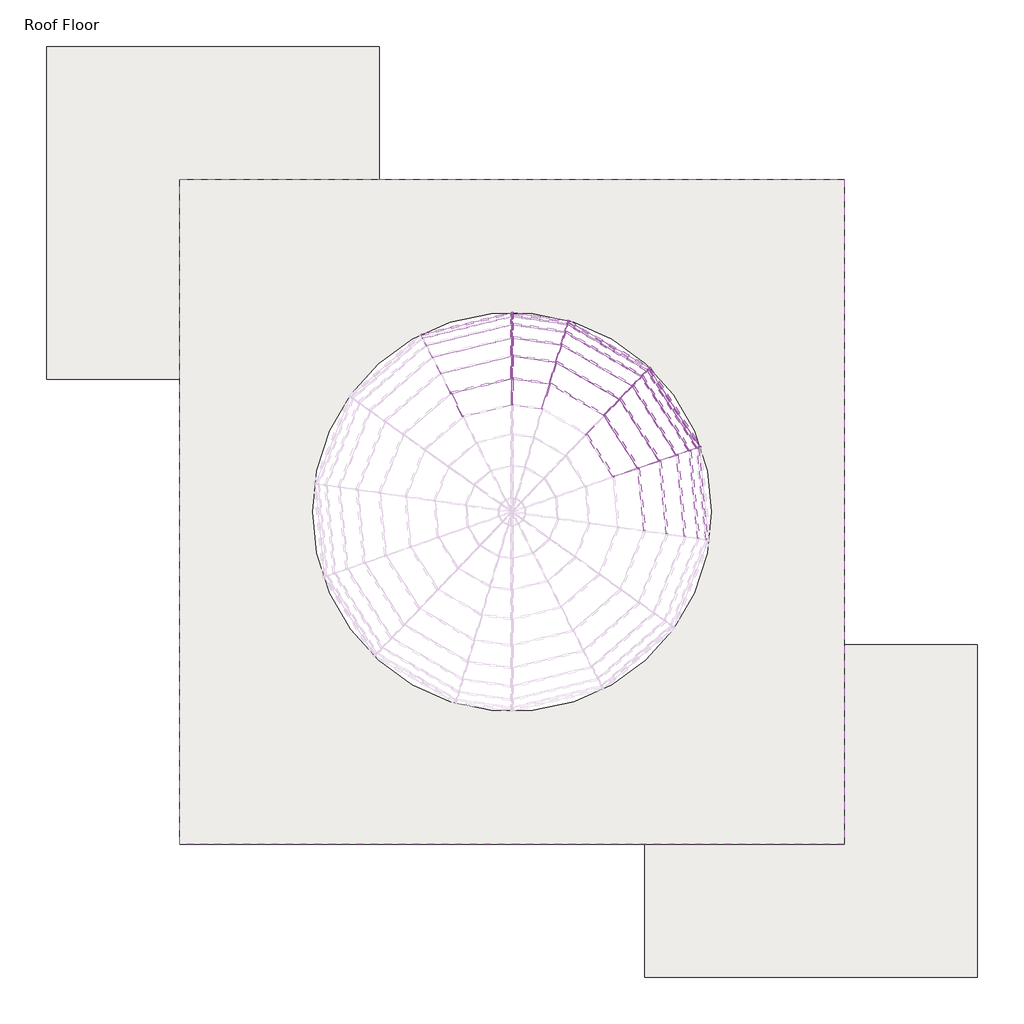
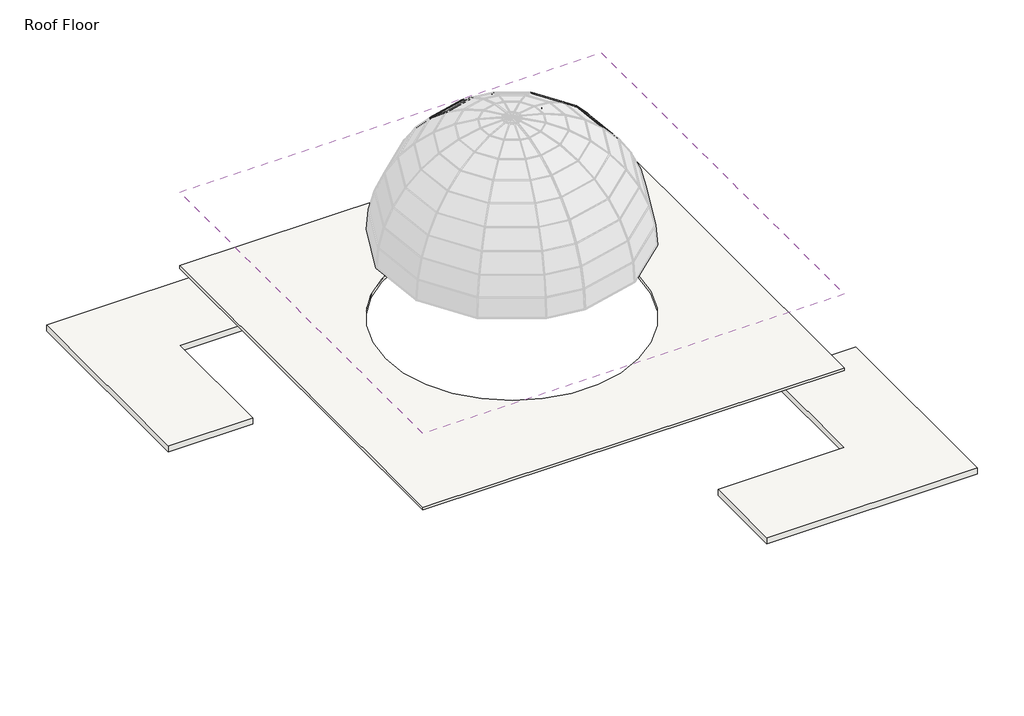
# One storey, part 5 of 5: 55 members, 23 plates, 2 roofs, 2 slabs.
"""IFC4 building model written with IfcOpenShell, lengths in millimetres."""

from ifc_helpers import new_model, si_unit, point, frame, frame_2d, origin, place, context, project, spatial, polyline, circle_curve, trimmed, segment, composite_curve, outline, extrude, transform, mapped, element, save
from components import member_a4b9d852, member_4cbb40d8, member_e5884c93, member_19e455aa, member_1644e863, member_ecfbb555, member_1f5db4fb, member_3542fcca, member_8c0c7285, member_6952dcc5, member_c3dcfc8e, member_16816f3b, member_335e9b28, member_95e271e4, member_56577a18, member_7f7bd10d, member_e03b8e9c, member_dc775c2f, member_acb6b9ec, member_e077157f, member_c4213f63, member_8ccf5568, member_51c93bb0, member_3c5b05b3, member_fd7ad58a, member_76afc974, member_c7f1f8f4, member_0ec1a058, system_panel_glazed_8f517b17, system_panel_glazed_e103372f, system_panel_glazed_d4e3dddd, system_panel_glazed_6000cac6, system_panel_glazed_c16507b5, system_panel_glazed_773f6a53, system_panel_glazed_509ce35e, system_panel_glazed_afa622ac, system_panel_glazed_fdc99001, system_panel_glazed_fc471d4c, system_panel_glazed_079f8796, system_panel_glazed_023fd094, system_panel_glazed_a1e2ecf7, system_panel_glazed_c9cd471f, system_panel_glazed_8f62df24, system_panel_glazed_f537650c, system_panel_glazed_44273b71, system_panel_glazed_6d268319

model = new_model("IFC4")

# Units and contexts
model_context = context("Model", 3, world=origin())
ifc_project = project(units=[si_unit("LENGTHUNIT", "METRE", prefix="MILLI")], contexts=[model_context])

# Site, building, storey
site = spatial("IfcSite", under=ifc_project)
building = spatial("IfcBuilding", under=site)
storey = spatial("IfcBuildingStorey", under=building, Name="Roof Floor", Elevation=15240.0)

# Members
placement = place(None, origin())
member_shape = member_a4b9d852(model_context)
element("IfcMember", 1, ObjectType="Rectangular Mullion : 1\" Square", at=placement, inside=storey, context=model_context, shape_type="MappedRepresentation", body=[
    mapped(member_shape, transform((-3865.6555486, 2046.7790077, 21675.0614442), x_axis=(0.17684502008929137, -0.7291506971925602, 0.6611089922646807), y_axis=(-0.1558248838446, 0.6424824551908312, 0.7502898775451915), z_axis=(-0.9718253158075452, -0.23570226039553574, 0.0))),
])
member_2_shape = member_4cbb40d8(model_context)
element("IfcMember", 2, ObjectType="Rectangular Mullion : 1\" Square", at=placement, inside=storey, context=model_context, shape_type="MappedRepresentation", body=[
    mapped(member_2_shape, transform((-2445.9654175, 2901.277492, 21117.9670279), x_axis=(-0.08886370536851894, -0.6165291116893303, 0.7823011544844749), y_axis=(0.11160400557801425, 0.774299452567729, 0.6229003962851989), z_axis=(-0.9897715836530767, 0.14266117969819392, 0.0))),
])
member_3_shape = member_e5884c93(model_context)
element("IfcMember", 3, ObjectType="Rectangular Mullion : 1\" Square", at=placement, inside=storey, context=model_context, shape_type="MappedRepresentation", body=[
    mapped(member_3_shape, transform((924.03532, 474.2517773, 21117.9670279), x_axis=(-0.6270371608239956, -0.059616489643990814, 0.7767047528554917), y_axis=(0.7732178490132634, 0.07351483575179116, 0.6298648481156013), z_axis=(-0.0946496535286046, 0.9955106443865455, 0.0))),
])
element("IfcMember", 4, ObjectType="Rectangular Mullion : 1\" Square", at=placement, inside=storey, context=model_context, shape_type="MappedRepresentation", body=[
    mapped(member_3_shape, transform((15.2659687, 1900.7280925, 21117.9670279), x_axis=(-0.5300546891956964, -0.34025248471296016, 0.7767047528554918), y_axis=(0.6536259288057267, 0.41957528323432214, 0.6298648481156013), z_axis=(-0.5401991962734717, 0.8415371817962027, 0.0))),
])
element("IfcMember", 5, ObjectType="Rectangular Mullion : 1\" Square", at=placement, inside=storey, context=model_context, shape_type="MappedRepresentation", body=[
    mapped(member_3_shape, transform((-1446.0304014, 2752.3790366, 21117.9670279), x_axis=(-0.31528228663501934, -0.5452768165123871, 0.7767047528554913), y_axis=(0.38878380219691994, 0.6723967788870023, 0.6298648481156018), z_axis=(-0.8657044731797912, 0.500555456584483, 0.0))),
])
member_4_shape = member_19e455aa(model_context)
element("IfcMember", 6, ObjectType="Rectangular Mullion : 1\" Square", at=placement, inside=storey, context=model_context, shape_type="MappedRepresentation", body=[
    mapped(member_4_shape, transform((-2445.9654175, 3321.4246649, 20482.2624164), x_axis=(-0.06901071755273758, -0.4787907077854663, 0.8752125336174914), y_axis=(0.12485885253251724, 0.8662604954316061, 0.48373858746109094), z_axis=(-0.9897715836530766, 0.14266117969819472, 0.0))),
])
member_5_shape = member_1644e863(model_context)
element("IfcMember", 7, ObjectType="Rectangular Mullion : 1\" Square", at=placement, inside=storey, context=model_context, shape_type="MappedRepresentation", body=[
    mapped(member_5_shape, transform((1321.1388108, 611.4832041, 20482.2624164), x_axis=(-0.48833472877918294, -0.04642914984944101, 0.87142040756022), y_axis=(0.8675082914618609, 0.08247963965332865, 0.4905369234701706), z_axis=(-0.09464965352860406, 0.9955106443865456, 0.0))),
])
element("IfcMember", 8, ObjectType="Rectangular Mullion : 1\" Square", at=placement, inside=storey, context=model_context, shape_type="MappedRepresentation", body=[
    mapped(member_5_shape, transform((305.3779974, 2204.6337649, 20482.2624164), x_axis=(-0.41280506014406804, -0.2649876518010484, 0.8714204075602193), y_axis=(0.7333326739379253, 0.4707406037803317, 0.49053692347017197), z_axis=(-0.5401991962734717, 0.8415371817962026, 0.0))),
])
element("IfcMember", 9, ObjectType="Rectangular Mullion : 1\" Square", at=placement, inside=storey, context=model_context, shape_type="MappedRepresentation", body=[
    mapped(member_5_shape, transform((-1327.3791745, 3155.4243607, 20482.2624164), x_axis=(-0.24554093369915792, -0.4246600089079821, 0.8714204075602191), y_axis=(0.4361942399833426, 0.7543925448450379, 0.4905369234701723), z_axis=(-0.8657044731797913, 0.5005554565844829, 0.0))),
])
member_6_shape = member_ecfbb555(model_context)
element("IfcMember", 10, ObjectType="Rectangular Mullion : 1\" Square", at=placement, inside=storey, context=model_context, shape_type="MappedRepresentation", body=[
    mapped(member_6_shape, transform((1612.935569, 712.3226236, 19785.6060711), x_axis=(-0.3344897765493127, -0.031802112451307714, 0.941862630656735), y_axis=(0.9376342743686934, 0.08914697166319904, 0.335998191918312), z_axis=(-0.09464965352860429, 0.9955106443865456, 0.0))),
])
element("IfcMember", 11, ObjectType="Rectangular Mullion : 1\" Square", at=placement, inside=storey, context=model_context, shape_type="MappedRepresentation", body=[
    mapped(member_6_shape, transform((518.5560516, 2427.9475661, 19785.6060711), x_axis=(-0.2827549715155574, -0.18150595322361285, 0.9418626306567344), y_axis=(0.792612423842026, 0.5087934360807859, 0.3359981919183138), z_axis=(-0.5401991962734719, 0.8415371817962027, 0.0))),
])
element("IfcMember", 12, ObjectType="Rectangular Mullion : 1\" Square", at=placement, inside=storey, context=model_context, shape_type="MappedRepresentation", body=[
    mapped(member_6_shape, transform((-1240.1927252, 3451.5872544, 19785.6060711), x_axis=(-0.16818572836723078, -0.2908751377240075, 0.9418626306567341), y_axis=(0.4714544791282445, 0.81537469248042, 0.3359981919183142), z_axis=(-0.865704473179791, 0.500555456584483, 0.0))),
])
member_7_shape = member_1f5db4fb(model_context)
element("IfcMember", 13, ObjectType="Rectangular Mullion : 1\" Square", at=placement, inside=storey, context=model_context, shape_type="MappedRepresentation", body=[
    mapped(member_7_shape, transform((-2445.9654175, 3818.8903285, 19047.3495572), x_axis=(-0.0239321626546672, -0.16603938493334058, 0.9858286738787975), y_axis=(0.1406394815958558, 0.9757452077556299, 0.16775525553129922), z_axis=(-0.9897715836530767, 0.1426611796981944, 0.0))),
])
member_8_shape = member_3542fcca(model_context)
element("IfcMember", 14, ObjectType="Rectangular Mullion : 1\" Square", at=placement, inside=storey, context=model_context, shape_type="MappedRepresentation", body=[
    mapped(member_8_shape, transform((1791.3201289, 773.9689406, 19047.3495572), x_axis=(-0.16999696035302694, -0.016162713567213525, 0.9853120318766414), y_axis=(0.9808886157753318, 0.09325944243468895, 0.17076357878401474), z_axis=(-0.09464965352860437, 0.9955106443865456, 0.0))),
])
element("IfcMember", 15, ObjectType="Rectangular Mullion : 1\" Square", at=placement, inside=storey, context=model_context, shape_type="MappedRepresentation", body=[
    mapped(member_8_shape, transform((648.8785186, 2564.4663348, 19047.3495572), x_axis=(-0.14370390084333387, -0.092246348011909, 0.9853120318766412), y_axis=(0.8291767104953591, 0.5322647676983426, 0.17076357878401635), z_axis=(-0.5401991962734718, 0.8415371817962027, 0.0))),
])
element("IfcMember", 16, ObjectType="Rectangular Mullion : 1\" Square", at=placement, inside=storey, context=model_context, shape_type="MappedRepresentation", body=[
    mapped(member_8_shape, transform((-1186.8928994, 3632.6409708, 19047.3495572), x_axis=(-0.08547664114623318, -0.14783079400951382, 0.985312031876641), y_axis=(0.4932033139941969, 0.852989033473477, 0.17076357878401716), z_axis=(-0.8657044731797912, 0.5005554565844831, 0.0))),
])
member_9_shape = member_8c0c7285(model_context)
element("IfcMember", 17, ObjectType="Rectangular Mullion : 1\" Square", at=placement, inside=storey, context=model_context, shape_type="MappedRepresentation", body=[
    mapped(member_9_shape, transform((-2445.9654175, 3630.1542173, 19785.6060711), x_axis=(-0.04716053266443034, -0.3271959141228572, 0.9437789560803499), y_axis=(0.134640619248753, 0.9341255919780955, 0.33057719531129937), z_axis=(-0.9897715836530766, 0.14266117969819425, 0.0))),
])
member_10_shape = member_6952dcc5(model_context)
element("IfcMember", 18, ObjectType="Rectangular Mullion : 1\" Square", at=placement, inside=storey, context=model_context, shape_type="MappedRepresentation", body=[
    mapped(member_10_shape, transform((1843.2747837, 818.0402649, 18288.0), x_axis=(0.06816541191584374, 0.04375671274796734, -0.9967140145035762), y_axis=(0.8387719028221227, 0.5384241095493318, 0.08100106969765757), z_axis=(0.5401991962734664, -0.8415371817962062, 0.0))),
])
element("IfcMember", 19, ObjectType="Rectangular Mullion : 1\" Square", at=placement, inside=storey, context=model_context, shape_type="MappedRepresentation", body=[
    mapped(member_10_shape, transform((674.8703533, 2627.4424597, 18288.0), x_axis=(0.0405455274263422, 0.07012298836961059, -0.9967140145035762), y_axis=(0.4989106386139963, 0.86285978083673, 0.08100106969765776), z_axis=(0.8657044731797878, -0.5005554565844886, 0.0))),
])
member_11_shape = member_c3dcfc8e(model_context)
element("IfcMember", 20, ObjectType="Rectangular Mullion : 1\" Square", at=placement, inside=storey, context=model_context, shape_type="MappedRepresentation", body=[
    mapped(member_11_shape, transform((-1192.5247936, 3701.7250911, 18288.0), x_axis=(0.011767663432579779, 0.08164308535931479, -0.9965921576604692), y_axis=(0.14217501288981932, 0.9863985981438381, 0.08248679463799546), z_axis=(0.9897715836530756, -0.14266117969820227, 0.0))),
])
member_12_shape = member_16816f3b(model_context)
element("IfcMember", 21, ObjectType="Rectangular Mullion : 1\" Square", at=placement, inside=storey, context=model_context, shape_type="MappedRepresentation", body=[
    mapped(member_12_shape, transform((-761.6121395, 1086.9125989, 22138.0708204), x_axis=(-0.7144526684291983, -0.45862115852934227, 0.5284165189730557), y_axis=(0.44468214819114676, 0.28545017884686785, 0.8489852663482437), z_axis=(-0.5401991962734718, 0.8415371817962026, 0.0))),
])
member_13_shape = member_335e9b28(model_context)
element("IfcMember", 22, ObjectType="Rectangular Mullion : 1\" Square", at=placement, inside=storey, context=model_context, shape_type="MappedRepresentation", body=[
    mapped(member_13_shape, transform((-2445.9654175, 2381.3834534, 21675.0614442), x_axis=(-0.10617586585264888, -0.7366394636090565, 0.667898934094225), y_axis=(0.09528324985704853, 0.661067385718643, 0.7442519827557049), z_axis=(-0.9897715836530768, 0.1426611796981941, 0.0))),
])
member_14_shape = member_95e271e4(model_context)
element("IfcMember", 23, ObjectType="Rectangular Mullion : 1\" Square", at=placement, inside=storey, context=model_context, shape_type="MappedRepresentation", body=[
    mapped(member_14_shape, transform((432.6557491, 304.4403271, 21675.0614442), x_axis=(-0.7469215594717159, -0.07101467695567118, 0.6611089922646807), y_axis=(0.658141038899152, 0.06257373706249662, 0.7502898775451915), z_axis=(-0.09464965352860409, 0.9955106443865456, 0.0))),
])
element("IfcMember", 24, ObjectType="Rectangular Mullion : 1\" Square", at=placement, inside=storey, context=model_context, shape_type="MappedRepresentation", body=[
    mapped(member_14_shape, transform((-343.7213671, 1524.6723731, 21675.0614442), x_axis=(-0.631396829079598, -0.405305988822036, 0.6611089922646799), y_axis=(0.5563477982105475, 0.357130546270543, 0.7502898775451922), z_axis=(-0.5401991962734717, 0.8415371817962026, 0.0))),
])
element("IfcMember", 25, ObjectType="Rectangular Mullion : 1\" Square", at=placement, inside=storey, context=model_context, shape_type="MappedRepresentation", body=[
    mapped(member_14_shape, transform((-1592.8505385, 2253.6469856, 21675.0614442), x_axis=(-0.37556169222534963, -0.6495293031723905, 0.6611089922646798), y_axis=(0.33092171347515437, 0.5723250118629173, 0.7502898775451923), z_axis=(-0.865704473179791, 0.5005554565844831, 0.0))),
])
member_15_shape = member_56577a18(model_context)
element("IfcMember", 26, ObjectType="Rectangular Mullion : 1\" Square", at=placement, inside=storey, context=model_context, shape_type="MappedRepresentation", body=[
    mapped(member_15_shape, transform((-2495.7899787, 3880.027085, 18288.0), x_axis=(-0.019092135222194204, 0.07871889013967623, -0.9967140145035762), y_axis=(-0.23492774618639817, 0.9686319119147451, 0.08100106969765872), z_axis=(0.971825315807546, 0.23570226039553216, 0.0))),
])
member_16_shape = member_7f7bd10d(model_context)
element("IfcMember", 27, ObjectType="Rectangular Mullion : 1\" Square", at=placement, inside=storey, context=model_context, shape_type="MappedRepresentation", body=[
    mapped(member_16_shape, transform((-3877.9977301, 2043.785589, 21675.0614442), x_axis=(-0.8888888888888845, -0.4581228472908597, 0.0), y_axis=(-0.27836636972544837, 0.5401100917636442, 0.7942249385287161), z_axis=(-0.36385259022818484, 0.7059777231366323, -0.6076238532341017))),
])
element("IfcMember", 28, ObjectType="Rectangular Mullion : 1\" Square", at=placement, inside=storey, context=model_context, shape_type="MappedRepresentation", body=[
    mapped(member_16_shape, transform((1790.1180783, 786.6119258, 19047.3495572), x_axis=(-0.3266270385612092, 0.9451533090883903, 0.0), y_axis=(0.915702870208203, 0.3164495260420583, 0.24768518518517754), z_axis=(0.23410047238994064, 0.08090067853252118, -0.9688405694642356))),
])
element("IfcMember", 29, ObjectType="Rectangular Mullion : 1\" Square", at=placement, inside=storey, context=model_context, shape_type="MappedRepresentation", body=[
    mapped(member_16_shape, transform((1611.7335184, 724.9656087, 19785.6060711), x_axis=(-0.3266270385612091, 0.9451533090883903, 0.0), y_axis=(0.8641037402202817, 0.2986178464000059, 0.4051568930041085), z_axis=(0.3829353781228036, 0.1323351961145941, -0.914247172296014))),
])
element("IfcMember", 30, ObjectType="Rectangular Mullion : 1\" Square", at=placement, inside=storey, context=model_context, shape_type="MappedRepresentation", body=[
    mapped(member_16_shape, transform((1319.9367602, 624.1261893, 20482.2624164), x_axis=(-0.32662703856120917, 0.9451533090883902, 0.0), y_axis=(0.7885017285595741, 0.2724912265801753, 0.551374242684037), z_axis=(0.5211331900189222, 0.180093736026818, -0.8342580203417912))),
])
element("IfcMember", 31, ObjectType="Rectangular Mullion : 1\" Square", at=placement, inside=storey, context=model_context, shape_type="MappedRepresentation", body=[
    mapped(member_16_shape, transform((922.8332694, 486.8947624, 21117.9670279), x_axis=(-0.3266270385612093, 0.9451533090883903, 0.0), y_axis=(0.6909968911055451, 0.2387954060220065, 0.6822756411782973), z_axis=(0.6448550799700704, 0.22284967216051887, -0.7310950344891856))),
])
element("IfcMember", 32, ObjectType="Rectangular Mullion : 1\" Square", at=placement, inside=storey, context=model_context, shape_type="MappedRepresentation", body=[
    mapped(member_16_shape, transform((431.4536985, 317.0833123, 21675.0614442), x_axis=(-0.32662703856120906, 0.9451533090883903, 0.0), y_axis=(0.5742976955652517, 0.1984663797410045, 0.794224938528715), z_axis=(0.7506643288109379, 0.25941533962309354, -0.6076238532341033))),
])
element("IfcMember", 33, ObjectType="Rectangular Mullion : 1\" Square", at=placement, inside=storey, context=model_context, shape_type="MappedRepresentation", body=[
    mapped(member_16_shape, transform((642.0179888, 2575.1538571, 19047.3495572), x_axis=(-0.7233314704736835, 0.6905009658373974, 0.0), y_axis=(0.6689853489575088, 0.700792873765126, 0.24768518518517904), z_axis=(0.17102685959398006, 0.17915848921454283, -0.9688405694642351))),
])
element("IfcMember", 34, ObjectType="Rectangular Mullion : 1\" Square", at=placement, inside=storey, context=model_context, shape_type="MappedRepresentation", body=[
    mapped(member_16_shape, transform((511.6955218, 2438.6350883, 19785.6060711), x_axis=(-0.7233314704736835, 0.6905009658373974, 0.0), y_axis=(0.6312885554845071, 0.6613037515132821, 0.4051568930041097), z_axis=(0.2797612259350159, 0.2930627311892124, -0.9142471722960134))),
])
element("IfcMember", 35, ObjectType="Rectangular Mullion : 1\" Square", at=placement, inside=storey, context=model_context, shape_type="MappedRepresentation", body=[
    mapped(member_16_shape, transform((298.5174676, 2215.3212871, 20482.2624164), x_axis=(-0.7233314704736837, 0.6905009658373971, 0.0), y_axis=(0.5760559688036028, 0.603445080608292, 0.5513742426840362), z_axis=(0.38072444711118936, 0.39882634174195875, -0.8342580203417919))),
])
element("IfcMember", 36, ObjectType="Rectangular Mullion : 1\" Square", at=placement, inside=storey, context=model_context, shape_type="MappedRepresentation", body=[
    mapped(member_16_shape, transform((8.4054389, 1911.4156147, 21117.9670279), x_axis=(-0.7233314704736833, 0.6905009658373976, 0.0), y_axis=(0.5048218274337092, 0.5288240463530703, 0.6822756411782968), z_axis=(0.47111198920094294, 0.4935114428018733, -0.731095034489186))),
])
element("IfcMember", 37, ObjectType="Rectangular Mullion : 1\" Square", at=placement, inside=storey, context=model_context, shape_type="MappedRepresentation", body=[
    mapped(member_16_shape, transform((-1197.8873462, 3638.9980251, 19047.3495572), x_axis=(-0.9592955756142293, 0.28240396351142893, 0.0), y_axis=(0.2736044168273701, 0.9294044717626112, 0.24768518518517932), z_axis=(0.0699472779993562, 0.23760330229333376, -0.9688405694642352))),
])
element("IfcMember", 38, ObjectType="Rectangular Mullion : 1\" Square", at=placement, inside=storey, context=model_context, shape_type="MappedRepresentation", body=[
    mapped(member_16_shape, transform((-1251.187172, 3457.9443087, 19785.6060711), x_axis=(-0.9592955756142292, 0.2824039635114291, 0.0), y_axis=(0.2581870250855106, 0.8770332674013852, 0.4051568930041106), z_axis=(0.1144179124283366, 0.38866521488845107, -0.914247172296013))),
])
element("IfcMember", 39, ObjectType="Rectangular Mullion : 1\" Square", at=placement, inside=storey, context=model_context, shape_type="MappedRepresentation", body=[
    mapped(member_16_shape, transform((-1338.3736213, 3161.781415, 20482.2624164), x_axis=(-0.9592955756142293, 0.28240396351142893, 0.0), y_axis=(0.23559777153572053, 0.800300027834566, 0.5513742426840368), z_axis=(0.15571027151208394, 0.5289308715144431, -0.8342580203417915))),
])
element("IfcMember", 40, ObjectType="Rectangular Mullion : 1\" Square", at=placement, inside=storey, context=model_context, shape_type="MappedRepresentation", body=[
    mapped(member_16_shape, transform((-1457.0248482, 2758.7360909, 21117.9670279), x_axis=(-0.9592955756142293, 0.28240396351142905, 0.0), y_axis=(0.2064641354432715, 0.7013362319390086, 0.6822756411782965), z_axis=(0.19267734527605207, 0.6545040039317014, -0.7310950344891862))),
])
element("IfcMember", 41, ObjectType="Rectangular Mullion : 1\" Square", at=placement, inside=storey, context=model_context, shape_type="MappedRepresentation", body=[
    mapped(member_16_shape, transform((-1603.8449853, 2260.0040399, 21675.0614442), x_axis=(-0.9592955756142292, 0.2824039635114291, 0.0), y_axis=(0.1715953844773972, 0.5828908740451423, 0.7942249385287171), z_axis=(0.2242922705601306, 0.7618964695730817, -0.6076238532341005))),
])
member_17_shape = member_e03b8e9c(model_context)
element("IfcMember", 42, ObjectType="Rectangular Mullion : 1\" Square", at=placement, inside=storey, context=model_context, shape_type="MappedRepresentation", body=[
    mapped(member_17_shape, transform((-2471.1056157, 3822.5139224, 19047.3495572), x_axis=(0.972012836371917, 0.23411060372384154, 0.01957731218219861), y_axis=(-0.23492774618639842, 0.9686319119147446, 0.08100106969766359), z_axis=(0.0, -0.08333333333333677, 0.9965217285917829))),
])
member_18_shape = member_dc775c2f(model_context)
element("IfcMember", 43, ObjectType="Rectangular Mullion : 1\" Square", at=placement, inside=storey, context=model_context, shape_type="MappedRepresentation", body=[
    mapped(member_18_shape, transform((-2471.1056157, 3633.7778113, 19785.6060711), x_axis=(0.973485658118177, 0.22162039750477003, 0.0566575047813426), y_axis=(-0.22874805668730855, 0.9431523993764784, 0.24111797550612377), z_axis=(0.0, -0.2476851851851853, 0.9688405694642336))),
])
member_19_shape = member_acb6b9ec(model_context)
element("IfcMember", 44, ObjectType="Rectangular Mullion : 1\" Square", at=placement, inside=storey, context=model_context, shape_type="MappedRepresentation", body=[
    mapped(member_19_shape, transform((-2471.1056157, 3325.0482588, 20482.2624164), x_axis=(0.9762871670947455, 0.19791575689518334, 0.08770815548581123), y_axis=(-0.21647948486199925, 0.8925677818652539, 0.39554947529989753), z_axis=(0.0, -0.40515689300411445, 0.9142471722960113))),
])
member_20_shape = member_e077157f(model_context)
element("IfcMember", 45, ObjectType="Rectangular Mullion : 1\" Square", at=placement, inside=storey, context=model_context, shape_type="MappedRepresentation", body=[
    mapped(member_20_shape, transform((-2471.1056157, 2904.9010859, 21117.9670279), x_axis=(0.9801376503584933, 0.16544871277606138, 0.10934765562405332), y_axis=(-0.19831839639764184, 0.8176876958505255, 0.5404226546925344), z_axis=(0.0, -0.5513742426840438, 0.8342580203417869))),
])
member_21_shape = member_c4213f63(model_context)
element("IfcMember", 46, ObjectType="Rectangular Mullion : 1\" Square", at=placement, inside=storey, context=model_context, shape_type="MappedRepresentation", body=[
    mapped(member_21_shape, transform((-2471.1056157, 2385.0070473, 21675.0614442), x_axis=(0.9846406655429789, 0.127644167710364, 0.11912063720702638), y_axis=(-0.1745931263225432, 0.7198659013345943, 0.671796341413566), z_axis=(0.0, -0.6822756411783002, 0.7310950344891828))),
])
member_22_shape = member_8ccf5568(model_context)
element("IfcMember", 47, ObjectType="Rectangular Mullion : 1\" Square", at=placement, inside=storey, context=model_context, shape_type="MappedRepresentation", body=[
    mapped(member_22_shape, transform((1850.1353135, 807.3527427, 18288.0), x_axis=(-0.326627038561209, 0.9451533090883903, 0.0), y_axis=(0.941865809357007, 0.3254909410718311, 0.08333333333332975), z_axis=(0.0787627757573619, 0.027218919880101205, -0.9965217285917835))),
])
element("IfcMember", 48, ObjectType="Rectangular Mullion : 1\" Square", at=placement, inside=storey, context=model_context, shape_type="MappedRepresentation", body=[
    mapped(member_22_shape, transform((685.8648001, 2621.0854054, 18288.0), x_axis=(-0.7233314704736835, 0.6905009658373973, 0.0), y_axis=(0.6880992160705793, 0.7208155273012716, 0.08333333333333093), z_axis=(0.05754174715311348, 0.0602776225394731, -0.9965217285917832))),
])
element("IfcMember", 49, ObjectType="Rectangular Mullion : 1\" Square", at=placement, inside=storey, context=model_context, shape_type="MappedRepresentation", body=[
    mapped(member_22_shape, transform((-1179.9546945, 3699.9132941, 18288.0), x_axis=(-0.9592955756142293, 0.282403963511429, 0.0), y_axis=(0.2814216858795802, 0.9559588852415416, 0.08333333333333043), z_axis=(0.02353366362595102, 0.07994129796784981, -0.9965217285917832))),
])
member_23_shape = member_51c93bb0(model_context)
element("IfcMember", 50, ObjectType="Rectangular Mullion : 1\" Square", at=placement, inside=storey, context=model_context, shape_type="MappedRepresentation", body=[
    mapped(member_23_shape, transform((-2471.1056157, 3886.0139224, 18288.0), x_axis=(-0.9898415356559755, 0.1416804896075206, 0.011847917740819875), y_axis=(0.1421750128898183, 0.9863985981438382, 0.08248679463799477), z_axis=(0.0, 0.08333333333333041, -0.9965217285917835))),
])
member_24_shape = member_3c5b05b3(model_context)
element("IfcMember", 51, ObjectType="Rectangular Mullion : 1\" Square", at=placement, inside=storey, context=model_context, shape_type="MappedRepresentation", body=[
    mapped(member_24_shape, transform((-2471.1056157, 3822.5139224, 19047.3495572), x_axis=(-0.9903900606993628, 0.13399288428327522, 0.03425543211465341), y_axis=(0.13830230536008, 0.9595300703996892, 0.245304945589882), z_axis=(0.0, 0.24768518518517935, -0.9688405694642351))),
])
member_25_shape = member_fd7ad58a(model_context)
element("IfcMember", 52, ObjectType="Rectangular Mullion : 1\" Square", at=placement, inside=storey, context=model_context, shape_type="MappedRepresentation", body=[
    mapped(member_25_shape, transform((-2471.1056157, 3633.7778113, 19785.6060711), x_axis=(-0.9914290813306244, 0.11944273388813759, 0.05293212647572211), y_axis=(0.13064599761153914, 0.9064112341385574, 0.40168432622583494), z_axis=(0.0, 0.40515689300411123, -0.9142471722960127))),
])
member_26_shape = member_76afc974(model_context)
element("IfcMember", 53, ObjectType="Rectangular Mullion : 1\" Square", at=placement, inside=storey, context=model_context, shape_type="MappedRepresentation", body=[
    mapped(member_26_shape, transform((-2471.1056157, 3325.0482588, 20482.2624164), x_axis=(-0.9928478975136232, 0.09959885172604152, 0.06582644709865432), y_axis=(0.11938614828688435, 0.8282913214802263, 0.5474307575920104), z_axis=(0.0, 0.5513742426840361, -0.8342580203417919))),
])
member_27_shape = member_c7f1f8f4(model_context)
element("IfcMember", 54, ObjectType="Rectangular Mullion : 1\" Square", at=placement, inside=storey, context=model_context, shape_type="MappedRepresentation", body=[
    mapped(member_27_shape, transform((-2471.1056157, 2904.9010859, 21117.9670279), x_axis=(-0.9944936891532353, 0.07661618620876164, 0.07150008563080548), y_axis=(0.10479648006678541, 0.7270693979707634, 0.6785188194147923), z_axis=(0.0, 0.6822756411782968, -0.7310950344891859))),
])
member_28_shape = member_0ec1a058(model_context)
element("IfcMember", 55, ObjectType="Rectangular Mullion : 1\" Square", at=placement, inside=storey, context=model_context, shape_type="MappedRepresentation", body=[
    mapped(member_28_shape, transform((-2471.1056157, 2385.0070473, 21675.0614442), x_axis=(-0.9961867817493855, 0.0530128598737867, 0.06929309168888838), y_axis=(0.08724617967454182, 0.6053068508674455, 0.7911963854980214), z_axis=(0.0, 0.7942249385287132, -0.6076238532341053))),
])

# Plates
system_panel_glazed_shape = system_panel_glazed_8f517b17(model_context)
element("IfcPlate", 56, ObjectType="System Panel : Glazed", at=placement, inside=storey, context=model_context, shape_type="MappedRepresentation", body=[
    mapped(system_panel_glazed_shape, transform((-3524.0617859, 3628.5174645, 18313.316536), x_axis=(-0.971825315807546, -0.23570226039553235, 0.0), y_axis=(0.23492774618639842, -0.968631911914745, -0.08100106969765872), z_axis=(0.019092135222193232, -0.07871889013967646, 0.9967140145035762))),
])
system_panel_glazed_2_shape = system_panel_glazed_e103372f(model_context)
element("IfcPlate", 57, ObjectType="System Panel : Glazed", at=placement, inside=storey, context=model_context, shape_type="MappedRepresentation", body=[
    mapped(system_panel_glazed_2_shape, transform((1266.2686553, 1713.1076536, 18313.316536), x_axis=(-0.5401991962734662, 0.8415371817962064, 0.0), y_axis=(-0.8387719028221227, -0.5384241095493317, -0.08100106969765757), z_axis=(-0.06816541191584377, -0.04375671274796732, 0.9967140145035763))),
])
element("IfcPlate", 58, ObjectType="System Panel : Glazed", at=placement, inside=storey, context=model_context, shape_type="MappedRepresentation", body=[
    mapped(system_panel_glazed_2_shape, transform((-248.0748036, 3158.7182259, 18313.316536), x_axis=(-0.8657044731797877, 0.5005554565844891, 0.0), y_axis=(-0.49891063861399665, -0.8628597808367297, -0.08100106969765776), z_axis=(-0.04054552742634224, -0.0701229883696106, 0.9967140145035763))),
])
system_panel_glazed_3_shape = system_panel_glazed_d4e3dddd(model_context)
element("IfcPlate", 59, ObjectType="System Panel : Glazed", at=placement, inside=storey, context=model_context, shape_type="MappedRepresentation", body=[
    mapped(system_panel_glazed_3_shape, transform((-1819.54356, 3789.9839114, 18313.3134408), x_axis=(-0.9897715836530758, 0.14266117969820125, 0.0), y_axis=(-0.14217501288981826, -0.9863985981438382, -0.08248679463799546), z_axis=(-0.011767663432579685, -0.08164308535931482, 0.9965921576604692))),
])
system_panel_glazed_4_shape = system_panel_glazed_6000cac6(model_context)
element("IfcPlate", 60, ObjectType="System Panel : Glazed", at=placement, inside=storey, context=model_context, shape_type="MappedRepresentation", body=[
    mapped(system_panel_glazed_4_shape, transform((-3509.2889111, 3567.5665119, 19059.674854), x_axis=(-0.9718253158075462, -0.23570226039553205, 0.0), y_axis=(0.22874805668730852, -0.9431523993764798, -0.24111797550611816), z_axis=(0.05683205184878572, -0.2343245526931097, 0.9704958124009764))),
])
system_panel_glazed_5_shape = system_panel_glazed_c16507b5(model_context)
element("IfcPlate", 61, ObjectType="System Panel : Glazed", at=placement, inside=storey, context=model_context, shape_type="MappedRepresentation", body=[
    mapped(system_panel_glazed_5_shape, transform((1213.4910798, 1679.2286944, 19059.674854), x_axis=(-0.5401991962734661, 0.8415371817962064, 0.0), y_axis=(-0.8167083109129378, -0.5242610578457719, -0.24111797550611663), z_axis=(-0.20290974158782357, -0.13025173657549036, 0.9704958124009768))),
])
element("IfcPlate", 62, ObjectType="System Panel : Glazed", at=placement, inside=storey, context=model_context, shape_type="MappedRepresentation", body=[
    mapped(system_panel_glazed_5_shape, transform((-279.4674788, 3104.4249823, 19059.674854), x_axis=(-0.8657044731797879, 0.5005554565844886, 0.0), y_axis=(-0.4857869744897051, -0.8401625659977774, -0.2411179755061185), z_axis=(-0.12069291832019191, -0.20873690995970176, 0.9704958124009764))),
])
system_panel_glazed_6_shape = system_panel_glazed_773f6a53(model_context)
element("IfcPlate", 63, ObjectType="System Panel : Glazed", at=placement, inside=storey, context=model_context, shape_type="MappedRepresentation", body=[
    mapped(system_panel_glazed_6_shape, transform((-1828.6519468, 3726.7660017, 19059.661521), x_axis=(-0.9897715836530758, 0.14266117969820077, 0.0), y_axis=(-0.13830230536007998, -0.9595300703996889, -0.2453049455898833), z_axis=(-0.03499549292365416, -0.2427958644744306, 0.9694459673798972))),
])
system_panel_glazed_7_shape = system_panel_glazed_509ce35e(model_context)
element("IfcPlate", 64, ObjectType="System Panel : Glazed", at=placement, inside=storey, context=model_context, shape_type="MappedRepresentation", body=[
    mapped(system_panel_glazed_7_shape, transform((-3465.6122602, 3387.4054041, 19797.2703184), x_axis=(-0.971825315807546, -0.23570226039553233, 0.0), y_axis=(0.2164794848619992, -0.892567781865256, -0.39554947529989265), z_axis=(0.09323190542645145, -0.3844049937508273, 0.9184446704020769))),
])
system_panel_glazed_8_shape = system_panel_glazed_afa622ac(model_context)
element("IfcPlate", 65, ObjectType="System Panel : Glazed", at=placement, inside=storey, context=model_context, shape_type="MappedRepresentation", body=[
    mapped(system_panel_glazed_8_shape, transform((1057.4870763, 1579.0866695, 19797.2703184), x_axis=(-0.540199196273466, 0.8415371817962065, 0.0), y_axis=(-0.7729053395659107, -0.4961430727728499, -0.39554947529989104), z_axis=(-0.3328695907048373, -0.2136755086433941, 0.9184446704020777))),
])
element("IfcPlate", 66, ObjectType="System Panel : Glazed", at=placement, inside=storey, context=model_context, shape_type="MappedRepresentation", body=[
    mapped(system_panel_glazed_8_shape, transform((-372.2603546, 2943.9408508, 19797.2703184), x_axis=(-0.8657044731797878, 0.500555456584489, 0.0), y_axis=(-0.45973249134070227, -0.7951016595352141, -0.39554947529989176), z_axis=(-0.1979944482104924, -0.3424289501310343, 0.9184446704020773))),
])
system_panel_glazed_9_shape = system_panel_glazed_fdc99001(model_context)
element("IfcPlate", 67, ObjectType="System Panel : Glazed", at=placement, inside=storey, context=model_context, shape_type="MappedRepresentation", body=[
    mapped(system_panel_glazed_9_shape, transform((-1855.5785897, 3539.9044327, 19797.2364542), x_axis=(-0.9897715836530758, 0.14266117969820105, 0.0), y_axis=(-0.1306459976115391, -0.9064112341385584, -0.4016843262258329), z_axis=(-0.057304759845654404, -0.39757573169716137, 0.9157781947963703))),
])
system_panel_glazed_10_shape = system_panel_glazed_fc471d4c(model_context)
element("IfcPlate", 68, ObjectType="System Panel : Glazed", at=placement, inside=storey, context=model_context, shape_type="MappedRepresentation", body=[
    mapped(system_panel_glazed_10_shape, transform((-3394.4850139, 3094.0335122, 20492.9481164), x_axis=(-0.971825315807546, -0.23570226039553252, 0.0), y_axis=(0.19831839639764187, -0.8176876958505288, -0.5404226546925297), z_axis=(0.12737884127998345, -0.52519641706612, 0.841393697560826))),
])
system_panel_glazed_11_shape = system_panel_glazed_079f8796(model_context)
element("IfcPlate", 69, ObjectType="System Panel : Glazed", at=placement, inside=storey, context=model_context, shape_type="MappedRepresentation", body=[
    mapped(system_panel_glazed_11_shape, transform((803.4513348, 1416.0161525, 20492.9481164), x_axis=(-0.540199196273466, 0.8415371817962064, 0.0), y_axis=(-0.7080640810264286, -0.45452019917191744, -0.5404226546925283), z_axis=(-0.45478575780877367, -0.2919358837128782, 0.841393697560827))),
])
element("IfcPlate", 70, ObjectType="System Panel : Glazed", at=placement, inside=storey, context=model_context, shape_type="MappedRepresentation", body=[
    mapped(system_panel_glazed_11_shape, transform((-523.363573, 2682.6097029, 20492.9481164), x_axis=(-0.8657044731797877, 0.500555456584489, 0.0), y_axis=(-0.4211642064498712, -0.7283982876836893, -0.5404226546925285), z_axis=(-0.2705115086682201, -0.46784630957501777, 0.8413936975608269))),
])
system_panel_glazed_12_shape = system_panel_glazed_023fd094(model_context)
element("IfcPlate", 71, ObjectType="System Panel : Glazed", at=placement, inside=storey, context=model_context, shape_type="MappedRepresentation", body=[
    mapped(system_panel_glazed_12_shape, transform((-1899.4268678, 3235.6248639, 20492.8904239), x_axis=(-0.9897715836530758, 0.14266117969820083, 0.0), y_axis=(-0.11938614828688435, -0.8282913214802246, -0.5474307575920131), z_axis=(-0.07809711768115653, -0.5418314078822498, 0.836850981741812))),
])
system_panel_glazed_13_shape = system_panel_glazed_a1e2ecf7(model_context)
element("IfcPlate", 72, ObjectType="System Panel : Glazed", at=placement, inside=storey, context=model_context, shape_type="MappedRepresentation", body=[
    mapped(system_panel_glazed_13_shape, transform((-3297.880842, 2695.5994759, 21127.3743739), x_axis=(-0.971825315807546, -0.2357022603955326, 0.0), y_axis=(0.17459312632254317, -0.7198659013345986, -0.6717963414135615), z_axis=(0.1583439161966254, -0.6528686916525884, 0.7407359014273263))),
])
system_panel_glazed_14_shape = system_panel_glazed_c9cd471f(model_context)
element("IfcPlate", 73, ObjectType="System Panel : Glazed", at=placement, inside=storey, context=model_context, shape_type="MappedRepresentation", body=[
    mapped(system_panel_glazed_14_shape, transform((458.4395159, 1194.5463098, 21127.3743739), x_axis=(-0.5401991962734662, 0.8415371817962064, 0.0), y_axis=(-0.6233568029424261, -0.400144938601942, -0.6717963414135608), z_axis=(-0.565341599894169, -0.3629038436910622, 0.7407359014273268))),
])
element("IfcPlate", 74, ObjectType="System Panel : Glazed", at=placement, inside=storey, context=model_context, shape_type="MappedRepresentation", body=[
    mapped(system_panel_glazed_14_shape, transform((-728.5803505, 2327.6898237, 21127.3743739), x_axis=(-0.8657044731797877, 0.500555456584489, 0.0), y_axis=(-0.37077939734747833, -0.6412583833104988, -0.6717963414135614), z_axis=(-0.33627132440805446, -0.5815770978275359, 0.7407359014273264))),
])
system_panel_glazed_15_shape = system_panel_glazed_8f62df24(model_context)
element("IfcPlate", 75, ObjectType="System Panel : Glazed", at=placement, inside=storey, context=model_context, shape_type="MappedRepresentation", body=[
    mapped(system_panel_glazed_15_shape, transform((-1958.9795354, 2822.3793192, 21127.2962322), x_axis=(-0.9897715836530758, 0.14266117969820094, 0.0), y_axis=(-0.10479648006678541, -0.7270693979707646, -0.678518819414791), z_axis=(-0.09679829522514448, -0.6715786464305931, 0.7345830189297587))),
])
system_panel_glazed_16_shape = system_panel_glazed_f537650c(model_context)
element("IfcPlate", 76, ObjectType="System Panel : Glazed", at=placement, inside=storey, context=model_context, shape_type="MappedRepresentation", body=[
    mapped(system_panel_glazed_16_shape, transform((-3178.4817773, 2203.1749472, 21682.9171425), x_axis=(-0.971825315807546, -0.23570226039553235, 0.0), y_axis=(0.14579573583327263, -0.6011312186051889, -0.785738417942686), z_axis=(0.18520032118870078, -0.7636004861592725, 0.6185589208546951))),
])
system_panel_glazed_17_shape = system_panel_glazed_44273b71(model_context)
element("IfcPlate", 77, ObjectType="System Panel : Glazed", at=placement, inside=storey, context=model_context, shape_type="MappedRepresentation", body=[
    mapped(system_panel_glazed_17_shape, transform((32.038304, 920.8310219, 21682.9171425), x_axis=(-0.5401991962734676, 0.8415371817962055, 0.0), y_axis=(-0.5205403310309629, -0.33414503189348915, -0.7857384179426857), z_axis=(-0.6612280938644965, -0.4244552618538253, 0.6185589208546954))),
])
system_panel_glazed_18_shape = system_panel_glazed_6d268319(model_context)
element("IfcPlate", 78, ObjectType="System Panel : Glazed", at=placement, inside=storey, context=model_context, shape_type="MappedRepresentation", body=[
    mapped(system_panel_glazed_18_shape, transform((-2032.5830017, 2311.6483566, 21682.8282837), x_axis=(-0.9897715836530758, 0.14266117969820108, 0.0), y_axis=(-0.08724617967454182, -0.6053068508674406, -0.7911963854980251), z_axis=(-0.112873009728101, -0.7831036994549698, 0.6115621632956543))),
])

# Roofs
element("IfcRoof", 79, ObjectType="Generic - 9\"", at=placement, inside=storey, context=model_context, shape_type="SweptSolid", body=[
    extrude(outline(polyline([(5148.8943843, 6934.0139224), (5148.8943843, -8305.9860776), (-10091.1056157, -8305.9860776), (-10091.1056157, 6934.0139224), (5148.8943843, 6934.0139224)]), holes=[composite_curve([segment(trimmed(circle_curve(frame_2d((-2471.1056157, -685.9860776)), 4572.0), [point((2100.8943843, -685.9860776))], [point((-7043.1056157, -685.9860776))], True, "CARTESIAN"), True, "CONTINUOUS"), segment(trimmed(circle_curve(frame_2d((-2471.1056157, -685.9860776)), 4572.0), [point((-7043.1056157, -685.9860776))], [point((2100.8943843, -685.9860776))], True, "CARTESIAN"), True, "CONTINUOUS")], self_intersect=False)]), frame((0.0, 0.0, 18059.4), z_axis=(0.0, 0.0, 1.0), x_axis=(1.0, 0.0, 0.0)), (0.0, 0.0, 1.0), 228.6),
])
element("IfcRoof", 80, ObjectType="Generic - 9\"", at=placement, inside=storey, context=model_context, shape_type="SweptSolid", body=[
    extrude(outline(polyline([(8196.8943843, -3733.9860776), (8196.8943843, -11353.9860776), (576.8943843, -11353.9860776), (576.8943843, -8305.9860776), (5148.8943843, -8305.9860776), (5148.8943843, -3733.9860776), (8196.8943843, -3733.9860776)])), frame((0.0, 0.0, 11963.4), z_axis=(0.0, 0.0, 1.0), x_axis=(1.0, 0.0, 0.0)), (0.0, 0.0, 1.0), 228.6),
    extrude(outline(polyline([(-5519.1056157, 9982.0139224), (-5519.1056157, 6934.0139224), (-10091.1056157, 6934.0139224), (-10091.1056157, 2362.0139224), (-13139.1056157, 2362.0139224), (-13139.1056157, 9982.0139224), (-5519.1056157, 9982.0139224)])), frame((0.0, 0.0, 11963.4), z_axis=(0.0, 0.0, 1.0), x_axis=(1.0, 0.0, 0.0)), (0.0, 0.0, 1.0), 228.6),
])

# Slabs
element("IfcSlab", 81, ObjectType="LW Concrete on Metal Deck", at=placement, inside=storey, context=model_context, shape_type="SweptSolid", body=[
    extrude(outline(polyline([(5148.8943843, 6934.0139224), (5148.8943843, -8305.9860776), (-10091.1056157, -8305.9860776), (-10091.1056157, 6934.0139224), (5148.8943843, 6934.0139224)]), holes=[composite_curve([segment(trimmed(circle_curve(frame_2d((-2471.1056157, -685.9860776)), 4572.0), [point((2100.8943843, -685.9860776))], [point((-7043.1056157, -685.9860776))], True, "CARTESIAN"), True, "CONTINUOUS"), segment(trimmed(circle_curve(frame_2d((-2471.1056157, -685.9860776)), 4572.0), [point((-7043.1056157, -685.9860776))], [point((2100.8943843, -685.9860776))], True, "CARTESIAN"), True, "CONTINUOUS")], self_intersect=False)]), frame((0.0, 0.0, 15135.225), z_axis=(0.0, 0.0, 1.0), x_axis=(1.0, 0.0, 0.0)), (0.0, 0.0, 1.0), 104.775),
])
element("IfcSlab", 82, ObjectType="LW Concrete on Metal Deck", at=placement, inside=storey, context=model_context, shape_type="SweptSolid", body=[
    extrude(outline(polyline([(5148.8943843, 6934.0139224), (5148.8943843, -8305.9860776), (-10091.1056157, -8305.9860776), (-10091.1056157, 6934.0139224), (5148.8943843, 6934.0139224)]), holes=[composite_curve([segment(trimmed(circle_curve(frame_2d((-2471.1056157, -685.9860776)), 4572.0), [point((2100.8943843, -685.9860776))], [point((-7043.1056157, -685.9860776))], True, "CARTESIAN"), True, "CONTINUOUS"), segment(trimmed(circle_curve(frame_2d((-2471.1056157, -685.9860776)), 4572.0), [point((-7043.1056157, -685.9860776))], [point((2100.8943843, -685.9860776))], True, "CARTESIAN"), True, "CONTINUOUS")], self_intersect=False)]), frame((0.0, 0.0, 15135.225), z_axis=(0.0, 0.0, 1.0), x_axis=(1.0, 0.0, 0.0)), (0.0, 0.0, 1.0), 104.775),
])

save(model, "model.ifc")
